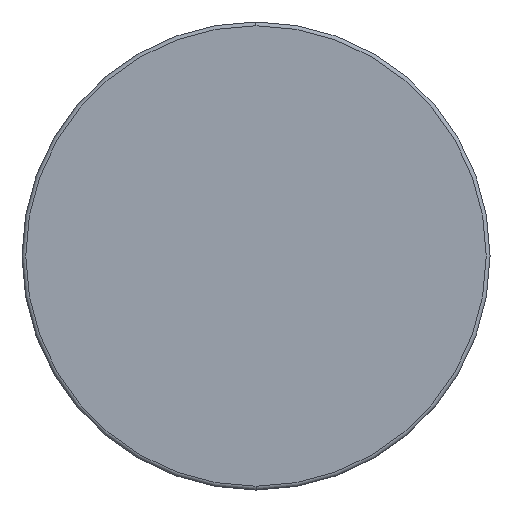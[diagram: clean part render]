
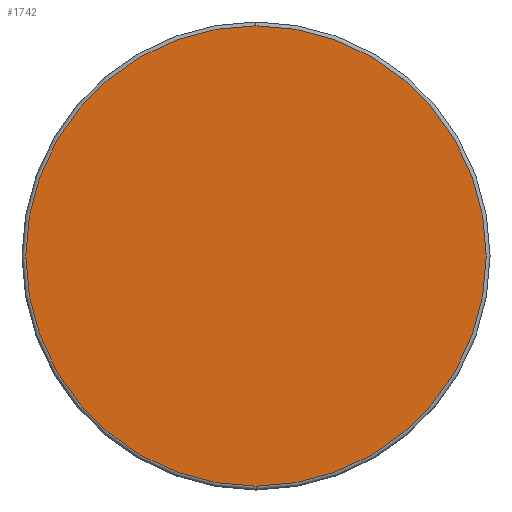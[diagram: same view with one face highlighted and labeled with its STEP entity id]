
A CAD part, front view. The second image highlights one B-rep face of the part: STEP entity #1742.
In plain terms, the highlighted planar face has unit normal (0, -1, 0) as drawn and (-1, 0, 0) by its records, which use the part's own axes.
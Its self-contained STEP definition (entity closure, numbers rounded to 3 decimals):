
#73 = AXIS2_PLACEMENT_3D ( 'NONE', #2463, #604, #3986 ) ;
#560 = ORIENTED_EDGE ( 'NONE', *, *, #1195, .T. ) ;
#585 = EDGE_LOOP ( 'NONE', ( #560, #4545 ) ) ;
#604 = DIRECTION ( 'NONE',  ( 1., 0., 0. ) ) ;
#1195 = EDGE_CURVE ( 'NONE', #1544, #2370, #1758, .T. ) ;
#1544 = VERTEX_POINT ( 'NONE', #4608 ) ;
#1669 = CARTESIAN_POINT ( 'NONE',  ( 0., 0., 0. ) ) ;
#1742 = ADVANCED_FACE ( 'NONE', ( #3203 ), #2867, .F. ) ;
#1758 = CIRCLE ( 'NONE', #2594, 30.5 ) ;
#1984 = CIRCLE ( 'NONE', #2134, 30.5 ) ;
#2134 = AXIS2_PLACEMENT_3D ( 'NONE', #1669, #3230, #4668 ) ;
#2370 = VERTEX_POINT ( 'NONE', #4894 ) ;
#2463 = CARTESIAN_POINT ( 'NONE',  ( 0., 0., 0. ) ) ;
#2594 = AXIS2_PLACEMENT_3D ( 'NONE', #4917, #3880, #4622 ) ;
#2867 = PLANE ( 'NONE',  #73 ) ;
#3203 = FACE_OUTER_BOUND ( 'NONE', #585, .T. ) ;
#3230 = DIRECTION ( 'NONE',  ( -1., 0., 0. ) ) ;
#3880 = DIRECTION ( 'NONE',  ( -1., 0., 0. ) ) ;
#3986 = DIRECTION ( 'NONE',  ( 0., 0., -1. ) ) ;
#4545 = ORIENTED_EDGE ( 'NONE', *, *, #4580, .T. ) ;
#4580 = EDGE_CURVE ( 'NONE', #2370, #1544, #1984, .T. ) ;
#4608 = CARTESIAN_POINT ( 'NONE',  ( 0., 0., -30.5 ) ) ;
#4622 = DIRECTION ( 'NONE',  ( 0., 0., -1. ) ) ;
#4668 = DIRECTION ( 'NONE',  ( 0., 0., -1. ) ) ;
#4894 = CARTESIAN_POINT ( 'NONE',  ( 0., 0., 30.5 ) ) ;
#4917 = CARTESIAN_POINT ( 'NONE',  ( 0., 0., 0. ) ) ;
